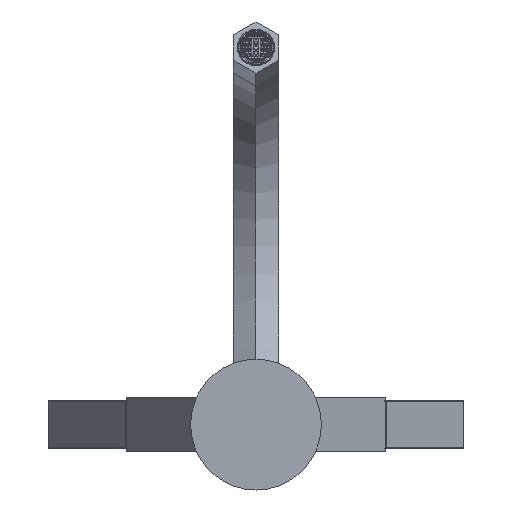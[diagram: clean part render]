
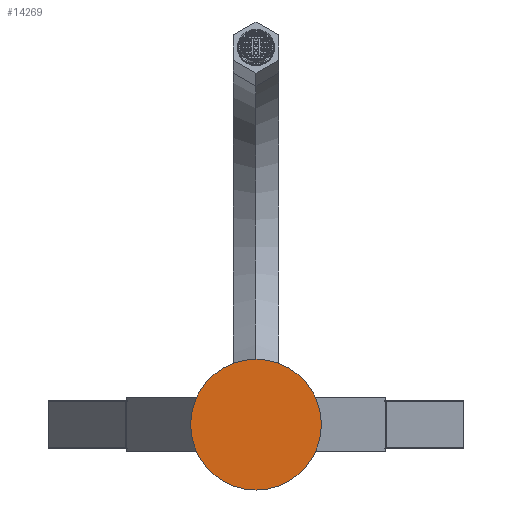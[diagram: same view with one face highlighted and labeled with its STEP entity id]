
A CAD part, front view. The second image highlights one B-rep face of the part: STEP entity #14269.
In plain terms, the highlighted planar face has unit normal (0, -1, 0).
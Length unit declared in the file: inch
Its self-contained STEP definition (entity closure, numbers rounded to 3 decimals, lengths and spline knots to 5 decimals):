
#14206=CARTESIAN_POINT('',(1.1811,-0.1378,0.0));
#14207=VERTEX_POINT('',#14206);
#14214=CARTESIAN_POINT('',(-1.1811,-0.1378,0.0));
#14215=VERTEX_POINT('',#14214);
#14216=CARTESIAN_POINT('',(0.0,-0.1378,0.0));
#14217=DIRECTION('',(0.0,1.0,0.0));
#14218=DIRECTION('',(1.0,0.0,0.0));
#14219=AXIS2_PLACEMENT_3D('',#14216,#14217,#14218);
#14220=CIRCLE('',#14219,1.1811);
#14221=EDGE_CURVE('',#14207,#14215,#14220,.T.);
#14223=CARTESIAN_POINT('',(0.0,-0.1378,0.0));
#14224=DIRECTION('',(0.0,1.0,0.0));
#14225=DIRECTION('',(1.0,0.0,0.0));
#14226=AXIS2_PLACEMENT_3D('',#14223,#14224,#14225);
#14227=CIRCLE('',#14226,1.1811);
#14228=EDGE_CURVE('',#14215,#14207,#14227,.T.);
#14260=CARTESIAN_POINT('',(-1.41732,-0.1378,1.41732));
#14261=DIRECTION('',(0.0,1.0,0.0));
#14262=DIRECTION('',(1.0,0.0,0.0));
#14263=AXIS2_PLACEMENT_3D('',#14260,#14261,#14262);
#14264=PLANE('',#14263);
#14265=ORIENTED_EDGE('',*,*,#14228,.F.);
#14266=ORIENTED_EDGE('',*,*,#14221,.F.);
#14267=EDGE_LOOP('',(#14265,#14266));
#14268=FACE_OUTER_BOUND('',#14267,.T.);
#14269=ADVANCED_FACE('',(#14268),#14264,.F.);
